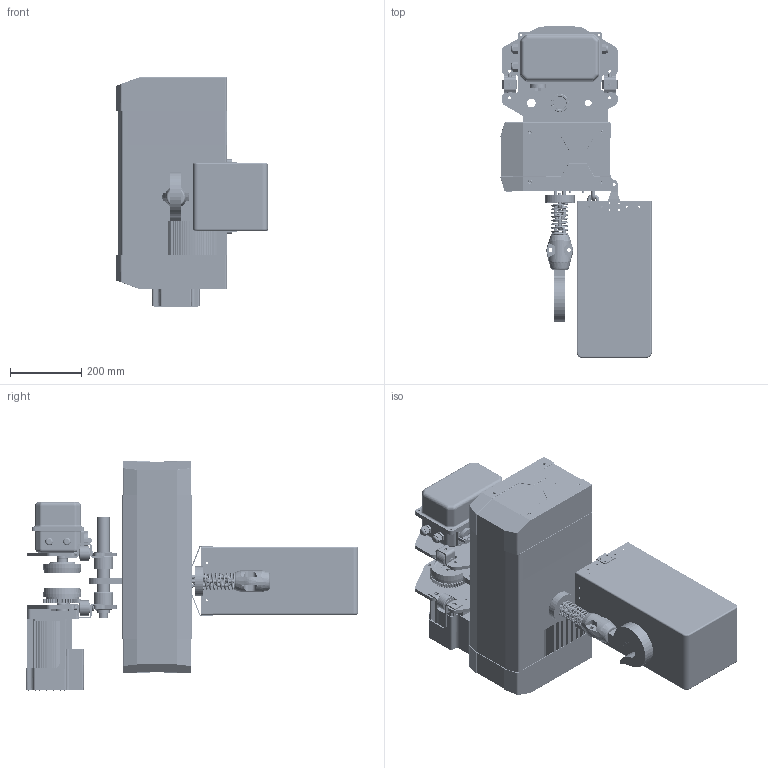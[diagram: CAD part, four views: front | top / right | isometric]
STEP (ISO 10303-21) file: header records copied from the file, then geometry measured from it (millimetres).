
FILE_DESCRIPTION(/* description */ (''),/* implementation_level */ '2;1');
FILE_NAME(/* name */ 'YJ 02-01 运行式.stp',/* time_stamp */ '2026-06-10T08:54:44+08:00',/* author */ (''),/* organization */ (''),/* preprocessor_version */ 'ST-DEVELOPER v16.7',/* originating_system */ 'SIEMENS PLM Software NX 12.0',/* authorisation */ '');
FILE_SCHEMA (('AP203_CONFIGURATION_CONTROLLED_3D_DESIGN_OF_MECHANICAL_PARTS_AND_ASSEMBLIES_MIM_LF { 1 0 10303 403 2 1 2}'));
Products named in the file (1): A099878D52boz
Bounding box: 424.21 x 931.05 x 642.73 mm (x, y, z)
Volume: 35091787.6 mm3; surface area: 3876674.7 mm2
Topology: 21 solids, 29 shells, 5585 faces, 14788 edges, 9160 vertices
Faces by surface type: plane 2077, cylinder 1822, extrusion 727, torus 383, bspline 337, cone 144, sphere 95
Full cylindrical faces by diameter (mm): 2 x4, 2.4 x4, 3.4 x8, 4.5 x4, 5.326 x2, 5.5 x32, 5.795 x8, 5.8 x2, 6 x5, 6.3 x8, 6.4 x6, 6.5 x6, 6.6 x8, 6.7 x4, 8.5 x8, 8.8 x4, 9 x2, 9.045 x2, 9.732 x4, 10 x8, 10.3 x13, 10.5 x4, 10.9 x8, 11 x2, 16 x4, 16.3 x4, 16.5 x1, 18.2 x4, 19 x1, 19.4 x3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
Entity records: 200260 total; most frequent: CARTESIAN_POINT 68056, ORIENTED_EDGE 28160, DIRECTION 25259, EDGE_CURVE 14080, VERTEX_POINT 8991, AXIS2_PLACEMENT_3D 8533, VECTOR 8193, LINE 7466
